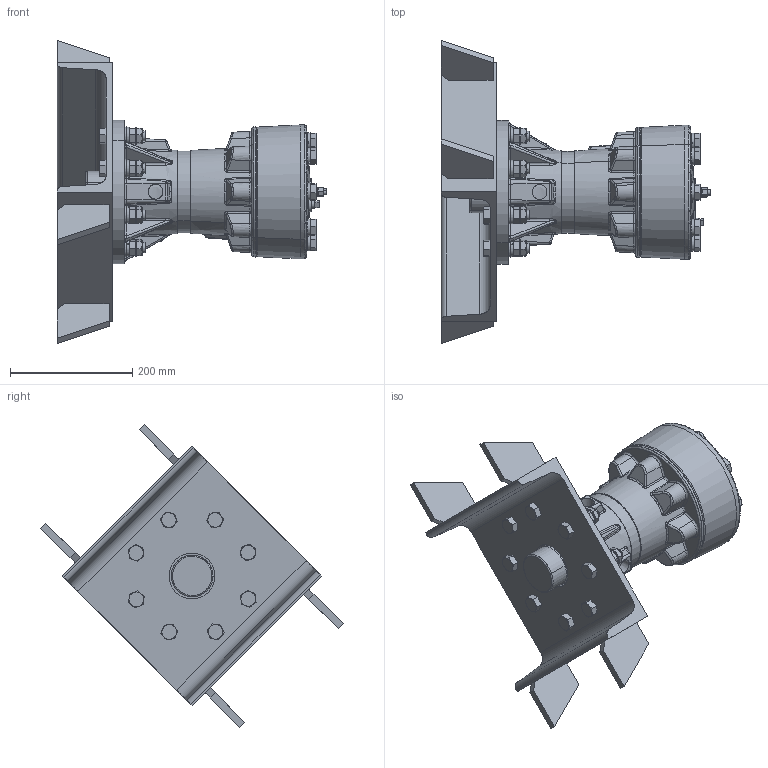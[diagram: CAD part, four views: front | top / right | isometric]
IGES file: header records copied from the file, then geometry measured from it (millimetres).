
Start section: SolidWorks IGES file using analytic representation for surfaces
Global section: file name: 94HV:\WORK\08133\HP 寸法図\knocker\RKD120P\test_K62000A-000 RKD120P_model＆base set_defeature.IGS; native system: SolidWorks 2018; preprocessor: SolidWorks 2018; author: n-udagawa; date: 230113.165939; units: millimetre
Bounding box: 441 x 494.97 x 494.97 mm (x, y, z)
Surface area: 634111.2 mm2 (no closed solid volume)
Topology: 0 solids, 0 shells, 1380 faces, 21189 edges, 24264 vertices
Faces by surface type: bspline 890, revolution 490
